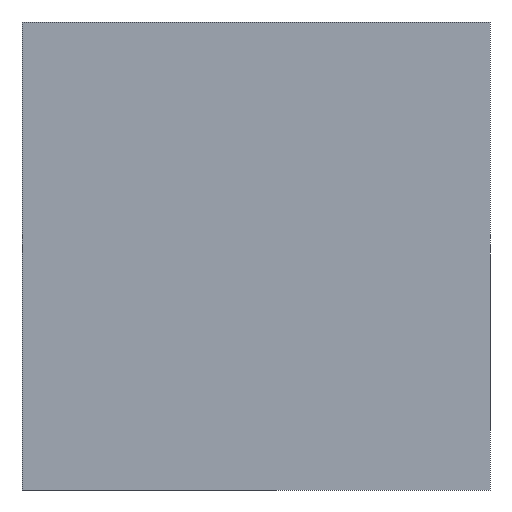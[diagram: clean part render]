
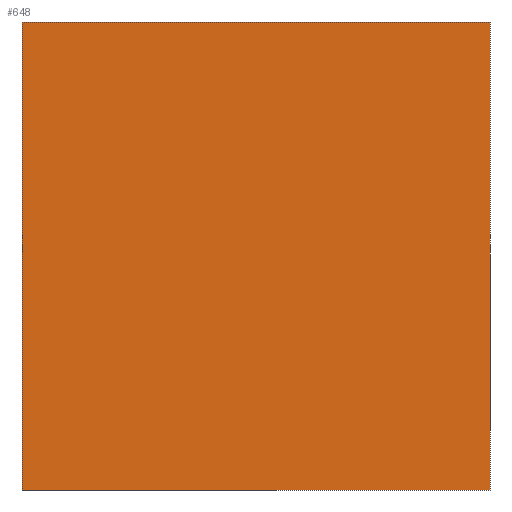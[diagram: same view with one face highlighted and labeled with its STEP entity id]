
A CAD part, front view. The second image highlights one B-rep face of the part: STEP entity #648.
In plain terms, the highlighted planar face has unit normal (0, -1, 0).
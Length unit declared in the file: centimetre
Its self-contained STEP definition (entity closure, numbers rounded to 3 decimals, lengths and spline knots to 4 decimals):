
#1 = DIRECTION ( 'NONE',  ( 1., 0., 0. ) ) ;
#9 = ORIENTED_EDGE ( 'NONE', *, *, #425, .T. ) ;
#35 = CARTESIAN_POINT ( 'NONE',  ( 0., 0., 1000. ) ) ;
#66 = PLANE ( 'NONE',  #256 ) ;
#70 = CARTESIAN_POINT ( 'NONE',  ( 0., 0., 1000. ) ) ;
#107 = VECTOR ( 'NONE', #342, 100. ) ;
#115 = VERTEX_POINT ( 'NONE', #675 ) ;
#127 = EDGE_CURVE ( 'NONE', #458, #861, #173, .T. ) ;
#170 = ORIENTED_EDGE ( 'NONE', *, *, #454, .T. ) ;
#173 = LINE ( 'NONE', #35, #590 ) ;
#191 = ORIENTED_EDGE ( 'NONE', *, *, #733, .F. ) ;
#209 = DIRECTION ( 'NONE',  ( 0., 1., 0. ) ) ;
#219 = ORIENTED_EDGE ( 'NONE', *, *, #127, .F. ) ;
#226 = VECTOR ( 'NONE', #699, 100. ) ;
#234 = CARTESIAN_POINT ( 'NONE',  ( 1000., 0., 1000. ) ) ;
#256 = AXIS2_PLACEMENT_3D ( 'NONE', #773, #209, #499 ) ;
#342 = DIRECTION ( 'NONE',  ( 0., 0., -1. ) ) ;
#351 = CARTESIAN_POINT ( 'NONE',  ( 0., 0., 0. ) ) ;
#423 = CARTESIAN_POINT ( 'NONE',  ( 0., 0., 1000. ) ) ;
#425 = EDGE_CURVE ( 'NONE', #447, #115, #476, .T. ) ;
#447 = VERTEX_POINT ( 'NONE', #351 ) ;
#454 = EDGE_CURVE ( 'NONE', #458, #447, #631, .T. ) ;
#458 = VERTEX_POINT ( 'NONE', #70 ) ;
#476 = LINE ( 'NONE', #766, #562 ) ;
#499 = DIRECTION ( 'NONE',  ( 0., 0., 1. ) ) ;
#518 = DIRECTION ( 'NONE',  ( 1., 0., 0. ) ) ;
#547 = LINE ( 'NONE', #855, #107 ) ;
#562 = VECTOR ( 'NONE', #1, 100. ) ;
#590 = VECTOR ( 'NONE', #518, 100. ) ;
#616 = FACE_OUTER_BOUND ( 'NONE', #744, .T. ) ;
#631 = LINE ( 'NONE', #423, #226 ) ;
#648 = ADVANCED_FACE ( 'NONE', ( #616 ), #66, .F. ) ;
#675 = CARTESIAN_POINT ( 'NONE',  ( 1000., 0., 0. ) ) ;
#699 = DIRECTION ( 'NONE',  ( 0., 0., -1. ) ) ;
#733 = EDGE_CURVE ( 'NONE', #861, #115, #547, .T. ) ;
#744 = EDGE_LOOP ( 'NONE', ( #9, #191, #219, #170 ) ) ;
#766 = CARTESIAN_POINT ( 'NONE',  ( 0., 0., 0. ) ) ;
#773 = CARTESIAN_POINT ( 'NONE',  ( 0., 0., 1000. ) ) ;
#855 = CARTESIAN_POINT ( 'NONE',  ( 1000., 0., 1000. ) ) ;
#861 = VERTEX_POINT ( 'NONE', #234 ) ;
